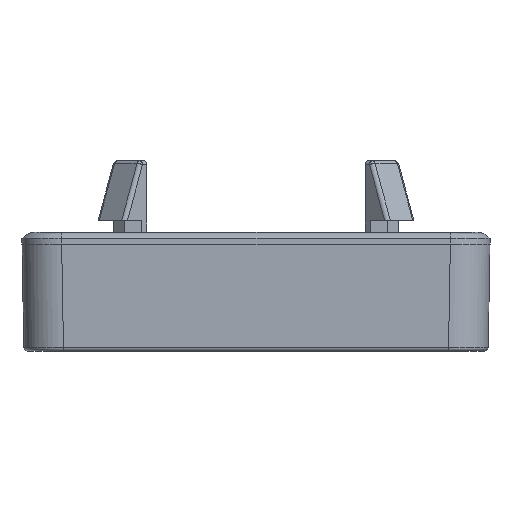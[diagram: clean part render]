
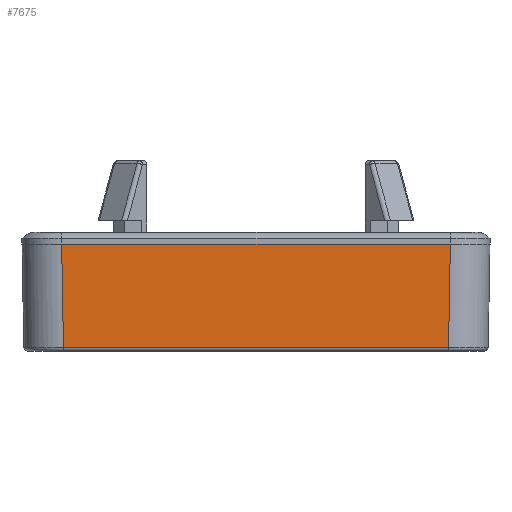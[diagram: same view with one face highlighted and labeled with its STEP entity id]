
A CAD part, left-side view. The second image highlights one B-rep face of the part: STEP entity #7675.
In plain terms, the highlighted planar face has unit normal (-1, 0, -0.018).
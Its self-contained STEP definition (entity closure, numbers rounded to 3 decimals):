
#3141=LINE('',#46957,#5432);
#3142=LINE('',#46960,#5433);
#3143=LINE('',#46962,#5434);
#3144=LINE('',#46964,#5435);
#5432=VECTOR('',#35945,1.);
#5433=VECTOR('',#35946,1.);
#5434=VECTOR('',#35947,1.);
#5435=VECTOR('',#35948,1.);
#7675=ADVANCED_FACE('',(#10246),#9445,.F.);
#9445=PLANE('',#33090);
#10246=FACE_OUTER_BOUND('',#11924,.T.);
#11924=EDGE_LOOP('',(#15869,#15870,#15871,#15872));
#15869=ORIENTED_EDGE('',*,*,#27820,.T.);
#15870=ORIENTED_EDGE('',*,*,#27821,.T.);
#15871=ORIENTED_EDGE('',*,*,#27822,.T.);
#15872=ORIENTED_EDGE('',*,*,#27823,.F.);
#24789=VERTEX_POINT('',#46958);
#24790=VERTEX_POINT('',#46959);
#24791=VERTEX_POINT('',#46961);
#24792=VERTEX_POINT('',#46963);
#27820=EDGE_CURVE('',#24789,#24790,#3141,.T.);
#27821=EDGE_CURVE('',#24790,#24791,#3142,.T.);
#27822=EDGE_CURVE('',#24791,#24792,#3143,.T.);
#27823=EDGE_CURVE('',#24789,#24792,#3144,.T.);
#33090=AXIS2_PLACEMENT_3D('',#46965,#35949,#35950);
#35945=DIRECTION('',(0.017,-0.017,-1.));
#35946=DIRECTION('',(0.,-1.,0.));
#35947=DIRECTION('',(-0.017,-0.017,1.));
#35948=DIRECTION('',(0.,-1.,0.));
#35949=DIRECTION('',(1.,0.,0.017));
#35950=DIRECTION('',(-0.017,0.,1.));
#46957=CARTESIAN_POINT('',(-73.493,24.493,13.073));
#46958=CARTESIAN_POINT('',(-73.5,24.501,13.5));
#46959=CARTESIAN_POINT('',(-73.273,24.274,0.491));
#46960=CARTESIAN_POINT('',(-73.273,0.,0.491));
#46961=CARTESIAN_POINT('',(-73.273,-24.274,0.491));
#46962=CARTESIAN_POINT('',(-73.493,-24.493,13.073));
#46963=CARTESIAN_POINT('',(-73.5,-24.501,13.5));
#46964=CARTESIAN_POINT('',(-73.5,0.,13.5));
#46965=CARTESIAN_POINT('',(-73.5,0.,13.5));
